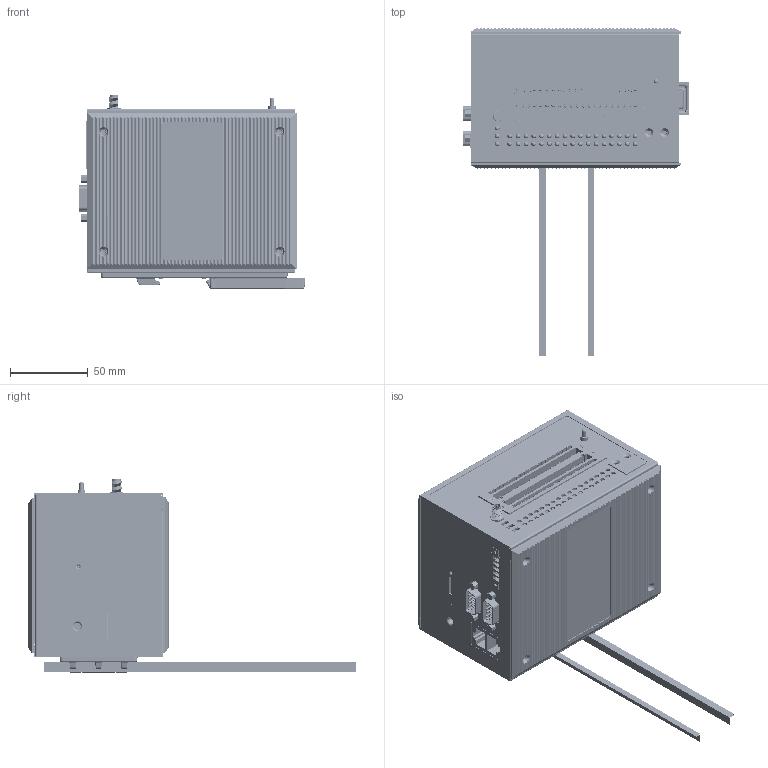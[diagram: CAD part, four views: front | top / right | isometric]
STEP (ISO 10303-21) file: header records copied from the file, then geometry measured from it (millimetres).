
FILE_DESCRIPTION((''),'2;1');
FILE_NAME('PRT0002','2013-12-02T',('Vincent_Huang'),(''),'PRO/ENGINEER BY PARAMETRIC TECHNOLOGY CORPORATION, 2004320','PRO/ENGINEER BY PARAMETRIC TECHNOLOGY CORPORATION, 2004320','');
FILE_SCHEMA(('CONFIG_CONTROL_DESIGN'));
Products named in the file (1): PRT0002
Bounding box: 144.9 x 210.29 x 124.5 mm (x, y, z)
Surface area: 351000.9 mm2 (no closed solid volume)
Topology: 0 solids, 144 shells, 11149 faces, 29845 edges, 19152 vertices
Faces by surface type: plane 6273, cylinder 2954, bspline 1079, cone 338, torus 304, sphere 135, extrusion 66
Entity records: 390882 total; most frequent: CARTESIAN_POINT 119807, ORIENTED_EDGE 59180, DIRECTION 51614, EDGE_CURVE 29658, VERTEX_POINT 19152, VECTOR 19064, LINE 18998, AXIS2_PLACEMENT_3D 16275
